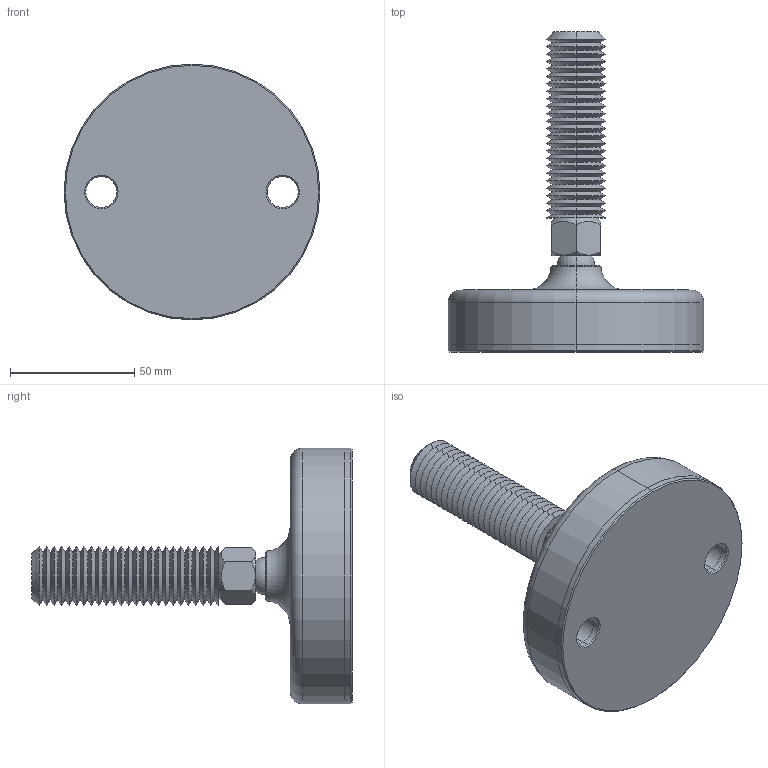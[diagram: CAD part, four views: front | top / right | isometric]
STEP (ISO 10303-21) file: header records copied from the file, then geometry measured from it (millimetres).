
FILE_DESCRIPTION (( 'STEP AP203' ), '1' );
FILE_NAME ('34724.W2400.step', '2019-11-28T22:19:51', ( '' ), ( '' ), 'SwSTEP 2.0', 'SolidWorks 2017', '' );
FILE_SCHEMA (( 'CONFIG_CONTROL_DESIGN' ));
Length unit declared in the file: millimetre
Products named in the file (4): 34724.W2400; Part2_34724.W2400; Part3_34724.W2400; Part1_34724.W2400
Assembly tree (3 placements, depth 2):
  34724.W2400
    Part1_34724.W2400
    Part2_34724.W2400
    Part3_34724.W2400
Bounding box: 103 x 129 x 103 mm (x, y, z)
Volume: 238022.8 mm3; surface area: 54342.1 mm2
Topology: 3 solids, 3 shells, 148 faces, 311 edges, 169 vertices
Faces by surface type: cone 114, plane 14, cylinder 12, sphere 4, torus 4
Entity records: 4366 total; most frequent: CARTESIAN_POINT 772, DIRECTION 756, ORIENTED_EDGE 604, AXIS2_PLACEMENT_3D 312, EDGE_CURVE 302, VERTEX_POINT 164, EDGE_LOOP 160, CIRCLE 158
